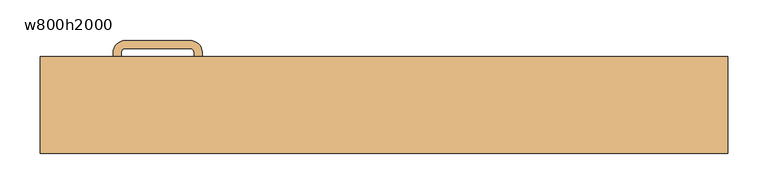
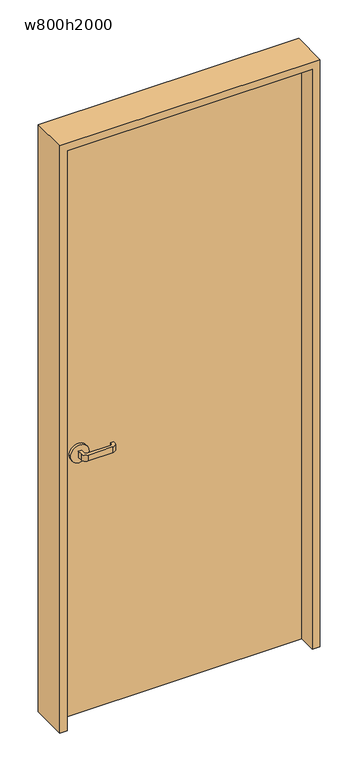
"""IFC4 building model written with IfcOpenShell, lengths in millimetres: door geometry, 片開き戸 : w800h2000."""

from ifc_helpers import new_model, si_unit, point, frame, frame_2d, origin, origin_with_axes, place, context, project, spatial, polyline, circle_curve, trimmed, segment, composite_curve, outline, extrude, source, transform, mapped, element, save


def w800h2000_3f366617(model_context):
    return source(origin(), model_context, "Body", "SweptSolid", [
        extrude(outline(polyline([(400.0, 40.0), (400.0, 0.0), (-400.0, 0.0), (-400.0, 40.0), (400.0, 40.0)])), origin_with_axes(), (0.0, 0.0, 1.0), 2000.0),
        extrude(outline(composite_curve([segment(polyline([(-325.0, 50.0), (-335.0, 50.0), (-335.0, 65.0)]), True, "CONTINUOUS"), segment(trimmed(circle_curve(frame_2d((-320.0, 65.0)), 15.0), [point((-335.0, 65.0))], [point((-320.0, 80.0))], False, "CARTESIAN"), True, "CONTINUOUS"), segment(polyline([(-320.0, 80.0), (-240.0, 80.0)]), True, "CONTINUOUS"), segment(trimmed(circle_curve(frame_2d((-240.0, 65.0)), 15.0), [point((-240.0, 80.0))], [point((-225.0, 65.0))], False, "CARTESIAN"), True, "CONTINUOUS"), segment(polyline([(-225.0, 65.0), (-225.0, 60.0), (-235.0, 60.0), (-235.0, 65.0)]), True, "CONTINUOUS"), segment(trimmed(circle_curve(frame_2d((-240.0, 65.0)), 5.0), [point((-235.0, 65.0))], [point((-240.0, 70.0))], True, "CARTESIAN"), True, "CONTINUOUS"), segment(polyline([(-240.0, 70.0), (-320.0, 70.0)]), True, "CONTINUOUS"), segment(trimmed(circle_curve(frame_2d((-320.0, 65.0)), 5.0), [point((-320.0, 70.0))], [point((-325.0, 65.0))], True, "CARTESIAN"), True, "CONTINUOUS"), segment(polyline([(-325.0, 65.0), (-325.0, 50.0)]), True, "CONTINUOUS")], self_intersect=False)), frame((0.0, 0.0, 890.0), z_axis=(0.0, 0.0, 1.0), x_axis=(1.0, 0.0, 0.0)), (0.0, 0.0, 1.0), 20.0),
        extrude(outline(composite_curve([segment(trimmed(circle_curve(frame_2d((900.0, -330.0)), 30.0), [point((900.0, -360.0))], [point((900.0, -300.0))], False, "CARTESIAN"), True, "CONTINUOUS"), segment(trimmed(circle_curve(frame_2d((900.0, -330.0)), 30.0), [point((900.0, -300.0))], [point((900.0, -360.0))], False, "CARTESIAN"), True, "CONTINUOUS")], self_intersect=False)), frame((0.0, 40.0, 0.0), z_axis=(0.0, 1.0, 0.0), x_axis=(0.0, 0.0, 1.0)), (0.0, 0.0, 1.0), 10.0),
        extrude(outline(composite_curve([segment(polyline([(-335.0, -10.0), (-325.0, -10.0), (-325.0, -25.0)]), True, "CONTINUOUS"), segment(trimmed(circle_curve(frame_2d((-320.0, -25.0)), 5.0), [point((-325.0, -25.0))], [point((-320.0, -30.0))], True, "CARTESIAN"), True, "CONTINUOUS"), segment(polyline([(-320.0, -30.0), (-240.0, -30.0)]), True, "CONTINUOUS"), segment(trimmed(circle_curve(frame_2d((-240.0, -25.0)), 5.0), [point((-240.0, -30.0))], [point((-235.0, -25.0))], True, "CARTESIAN"), True, "CONTINUOUS"), segment(polyline([(-235.0, -25.0), (-235.0, -20.0), (-225.0, -20.0), (-225.0, -25.0)]), True, "CONTINUOUS"), segment(trimmed(circle_curve(frame_2d((-240.0, -25.0)), 15.0), [point((-225.0, -25.0))], [point((-240.0, -40.0))], False, "CARTESIAN"), True, "CONTINUOUS"), segment(polyline([(-240.0, -40.0), (-320.0, -40.0)]), True, "CONTINUOUS"), segment(trimmed(circle_curve(frame_2d((-320.0, -25.0)), 15.0), [point((-320.0, -40.0))], [point((-335.0, -25.0))], False, "CARTESIAN"), True, "CONTINUOUS"), segment(polyline([(-335.0, -25.0), (-335.0, -10.0)]), True, "CONTINUOUS")], self_intersect=False)), frame((0.0, 0.0, 890.0), z_axis=(0.0, 0.0, 1.0), x_axis=(1.0, 0.0, 0.0)), (0.0, 0.0, 1.0), 20.0),
        extrude(outline(composite_curve([segment(trimmed(circle_curve(frame_2d((900.0, -330.0)), 30.0), [point((900.0, -360.0))], [point((900.0, -300.0))], False, "CARTESIAN"), True, "CONTINUOUS"), segment(trimmed(circle_curve(frame_2d((900.0, -330.0)), 30.0), [point((900.0, -300.0))], [point((900.0, -360.0))], False, "CARTESIAN"), True, "CONTINUOUS")], self_intersect=False)), frame((0.0, -10.0, 0.0), z_axis=(0.0, 1.0, 0.0), x_axis=(0.0, 0.0, 1.0)), (0.0, 0.0, 1.0), 10.0),
        extrude(outline(polyline([(0.0, -425.0), (0.0, -400.0), (2000.0, -400.0), (2000.0, 400.0), (0.0, 400.0), (0.0, 425.0), (2025.0, 425.0), (2025.0, -425.0), (0.0, -425.0)])), frame((0.0, -60.0, 0.0), z_axis=(0.0, 1.0, 0.0), x_axis=(0.0, 0.0, 1.0)), (0.0, 0.0, 1.0), 120.0),
    ])


if __name__ == "__main__":
    model = new_model("IFC4")
    model_context = context("Model", 3, world=origin())
    ifc_project = project(units=[si_unit("LENGTHUNIT", "METRE", prefix="MILLI")], contexts=[model_context])
    site = spatial("IfcSite", under=ifc_project)
    building = spatial("IfcBuilding", under=site)
    placement = place(None, origin())
    w800h2000_shape = w800h2000_3f366617(model_context)
    element("IfcDoor", 1, ObjectType="片開き戸 : w800h2000", at=placement, inside=building, context=model_context, shape_type="MappedRepresentation", body=[
        mapped(w800h2000_shape, transform((0.0, 0.0, 0.0), x_axis=(1.0, 0.0, 0.0), y_axis=(0.0, 1.0, 0.0), z_axis=(0.0, 0.0, 1.0))),
    ])
    save(model, "model.ifc")
